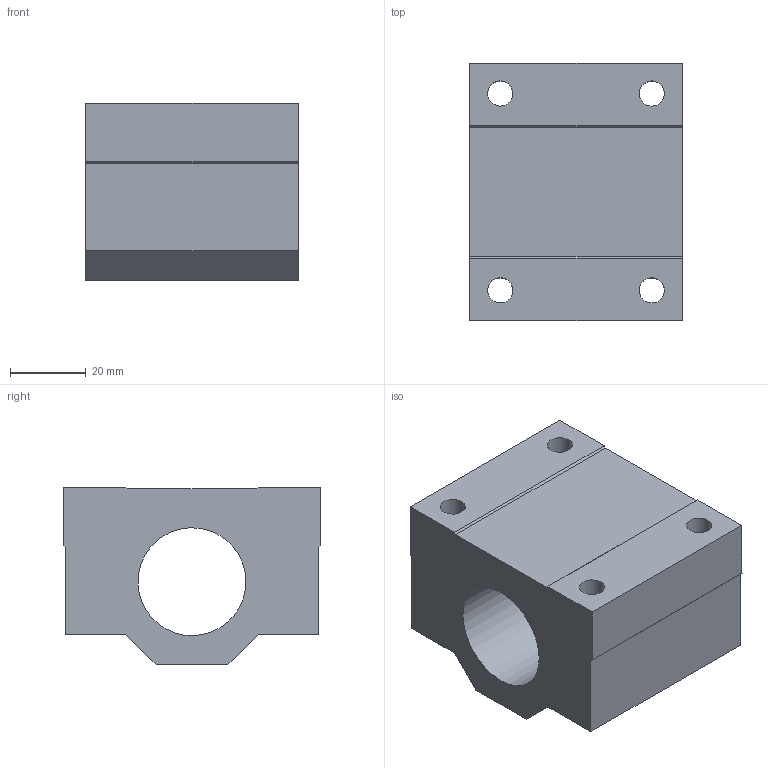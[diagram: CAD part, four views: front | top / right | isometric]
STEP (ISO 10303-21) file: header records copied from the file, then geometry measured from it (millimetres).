
FILE_DESCRIPTION(('CATIA V5 STEP Exchange'),'2;1');
FILE_NAME('C:\Users\aa\Documents\이댈\TM\BTM\BTM28.stp','2020-03-25T09:27:14+00:00',('none'),('none'),'CATIA Version 5 Release 20 SP 7 (IN-10)','CATIA V5 STEP AP203','none');
FILE_SCHEMA(('CONFIG_CONTROL_DESIGN'));
Length unit declared in the file: millimetre
Products named in the file (1): BTM28
Bounding box: 56 x 68 x 47 mm (x, y, z)
Volume: 117202 mm3; surface area: 24718.6 mm2
Topology: 1 solids, 1 shells, 28 faces, 78 edges, 52 vertices
Faces by surface type: plane 18, cylinder 10
Entity records: 958 total; most frequent: CARTESIAN_POINT 185, ORIENTED_EDGE 156, DIRECTION 128, EDGE_CURVE 78, VECTOR 58, LINE 58, VERTEX_POINT 52, AXIS2_PLACEMENT_3D 45
